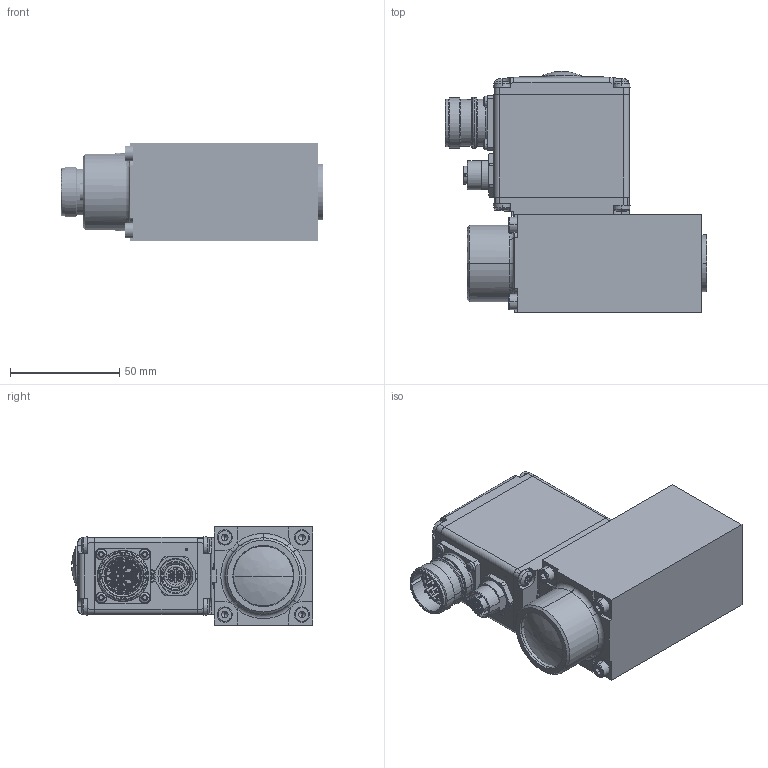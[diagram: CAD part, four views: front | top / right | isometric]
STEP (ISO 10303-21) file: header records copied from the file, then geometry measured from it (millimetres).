
FILE_DESCRIPTION (( 'STEP AP203' ), '1' );
FILE_NAME ('PI45LV-P1-24A.R..STEP', '2014-07-14T12:57:21', ( '' ), ( '' ), 'SwSTEP 2.0', 'SolidWorks 2014', '' );
FILE_SCHEMA (( 'CONFIG_CONTROL_DESIGN' ));
Products named in the file (2): PI45LV-P1-24A.R.
Bounding box: 119.7 x 110.39 x 45 mm (x, y, z)
Volume: 253854.9 mm3; surface area: 95369.6 mm2
Topology: 64 solids, 64 shells, 4913 faces, 13216 edges, 8545 vertices
Faces by surface type: plane 2608, cylinder 1292, torus 399, cone 393, bspline 148, sphere 73
Entity records: 169946 total; most frequent: CARTESIAN_POINT 47069, ORIENTED_EDGE 26230, DIRECTION 25001, EDGE_CURVE 13115, VERTEX_POINT 8521, AXIS2_PLACEMENT_3D 8364, VECTOR 8273, LINE 8273
